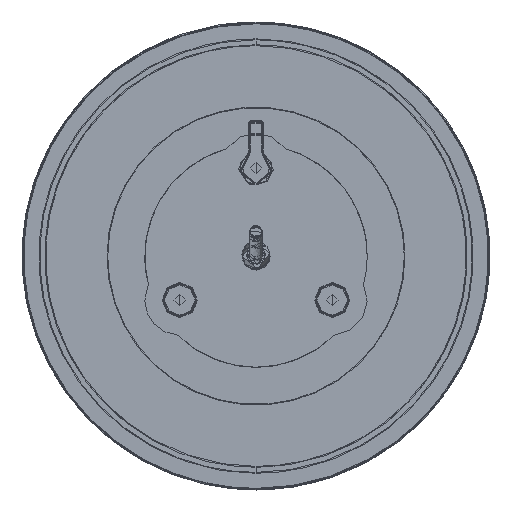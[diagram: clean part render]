
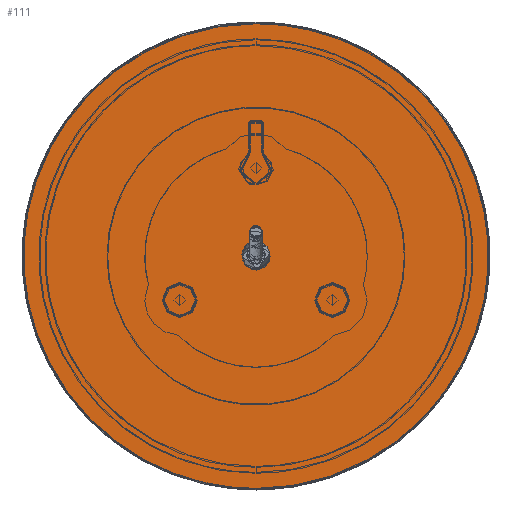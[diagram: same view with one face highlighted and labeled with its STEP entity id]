
A CAD part, top view. The second image highlights one B-rep face of the part: STEP entity #111.
In plain terms, the highlighted planar face has unit normal (0, 0, 1).
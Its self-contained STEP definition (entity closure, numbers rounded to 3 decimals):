
#39=FACE_BOUND('',#395,.T.);
#111=ADVANCED_FACE('',(#248,#39),#1855,.T.);
#248=FACE_OUTER_BOUND('',#394,.T.);
#394=EDGE_LOOP('',(#770,#771));
#395=EDGE_LOOP('',(#772,#773));
#770=ORIENTED_EDGE('',*,*,#1260,.T.);
#771=ORIENTED_EDGE('',*,*,#1208,.F.);
#772=ORIENTED_EDGE('',*,*,#1327,.T.);
#773=ORIENTED_EDGE('',*,*,#1151,.T.);
#1151=EDGE_CURVE('',#1718,#1717,#1518,.T.);
#1208=EDGE_CURVE('',#1774,#1775,#1562,.T.);
#1260=EDGE_CURVE('',#1774,#1775,#1584,.T.);
#1327=EDGE_CURVE('',#1717,#1718,#1636,.T.);
#1518=(
BOUNDED_CURVE()
B_SPLINE_CURVE(2,(#6309,#6310,#6311,#6312,#6313),.UNSPECIFIED.,.F.,.F.)
B_SPLINE_CURVE_WITH_KNOTS((3,2,3),(-7.854,-3.927,
0.),.UNSPECIFIED.)
CURVE()
GEOMETRIC_REPRESENTATION_ITEM()
RATIONAL_B_SPLINE_CURVE((1.,0.707,1.,0.707,1.))
REPRESENTATION_ITEM('')
);
#1562=(
BOUNDED_CURVE()
B_SPLINE_CURVE(2,(#6513,#6514,#6515,#6516,#6517),.UNSPECIFIED.,.F.,.F.)
B_SPLINE_CURVE_WITH_KNOTS((3,2,3),(0.,79.006,158.011),
 .UNSPECIFIED.)
CURVE()
GEOMETRIC_REPRESENTATION_ITEM()
RATIONAL_B_SPLINE_CURVE((1.,0.707,1.,0.707,1.))
REPRESENTATION_ITEM('')
);
#1584=(
BOUNDED_CURVE()
B_SPLINE_CURVE(2,(#6683,#6684,#6685,#6686,#6687),.UNSPECIFIED.,.F.,.F.)
B_SPLINE_CURVE_WITH_KNOTS((3,2,3),(-158.011,-79.006,
0.),.UNSPECIFIED.)
CURVE()
GEOMETRIC_REPRESENTATION_ITEM()
RATIONAL_B_SPLINE_CURVE((1.,0.707,1.,0.707,1.))
REPRESENTATION_ITEM('')
);
#1636=(
BOUNDED_CURVE()
B_SPLINE_CURVE(2,(#6937,#6938,#6939,#6940,#6941),.UNSPECIFIED.,.F.,.F.)
B_SPLINE_CURVE_WITH_KNOTS((3,2,3),(-7.854,-3.927,
0.),.UNSPECIFIED.)
CURVE()
GEOMETRIC_REPRESENTATION_ITEM()
RATIONAL_B_SPLINE_CURVE((1.,0.707,1.,0.707,1.))
REPRESENTATION_ITEM('')
);
#1717=VERTEX_POINT('',#6202);
#1718=VERTEX_POINT('',#6203);
#1774=VERTEX_POINT('',#6259);
#1775=VERTEX_POINT('',#6260);
#1855=PLANE('',#2012);
#2012=AXIS2_PLACEMENT_3D('',#4491,#2040,$);
#2040=DIRECTION('',(0.,0.,1.));
#4491=CARTESIAN_POINT('',(60.356,-85.806,53.55));
#6202=CARTESIAN_POINT('',(0.,-27.95,53.55));
#6203=CARTESIAN_POINT('',(0.,-22.95,53.55));
#6259=CARTESIAN_POINT('',(0.,-75.746,53.55));
#6260=CARTESIAN_POINT('',(0.,24.846,53.55));
#6309=CARTESIAN_POINT('',(0.,-22.95,53.55));
#6310=CARTESIAN_POINT('',(2.5,-22.95,53.55));
#6311=CARTESIAN_POINT('',(2.5,-25.45,53.55));
#6312=CARTESIAN_POINT('',(2.5,-27.95,53.55));
#6313=CARTESIAN_POINT('',(0.,-27.95,53.55));
#6513=CARTESIAN_POINT('',(0.,-75.746,53.55));
#6514=CARTESIAN_POINT('',(-50.296,-75.746,53.55));
#6515=CARTESIAN_POINT('',(-50.296,-25.45,53.55));
#6516=CARTESIAN_POINT('',(-50.296,24.846,53.55));
#6517=CARTESIAN_POINT('',(0.,24.846,53.55));
#6683=CARTESIAN_POINT('',(0.,-75.746,53.55));
#6684=CARTESIAN_POINT('',(50.296,-75.746,53.55));
#6685=CARTESIAN_POINT('',(50.296,-25.45,53.55));
#6686=CARTESIAN_POINT('',(50.296,24.846,53.55));
#6687=CARTESIAN_POINT('',(0.,24.846,53.55));
#6937=CARTESIAN_POINT('',(0.,-27.95,53.55));
#6938=CARTESIAN_POINT('',(-2.5,-27.95,53.55));
#6939=CARTESIAN_POINT('',(-2.5,-25.45,53.55));
#6940=CARTESIAN_POINT('',(-2.5,-22.95,53.55));
#6941=CARTESIAN_POINT('',(0.,-22.95,53.55));
